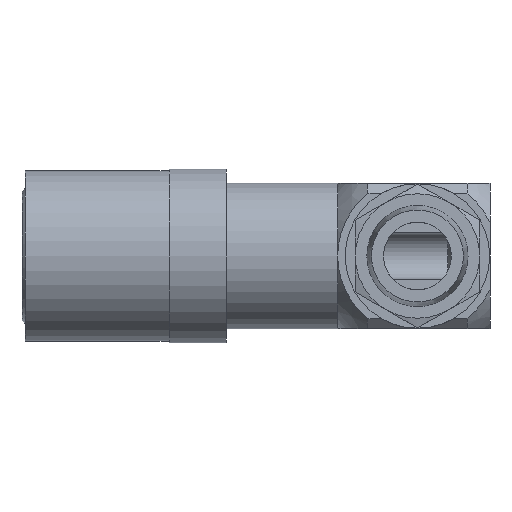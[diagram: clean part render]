
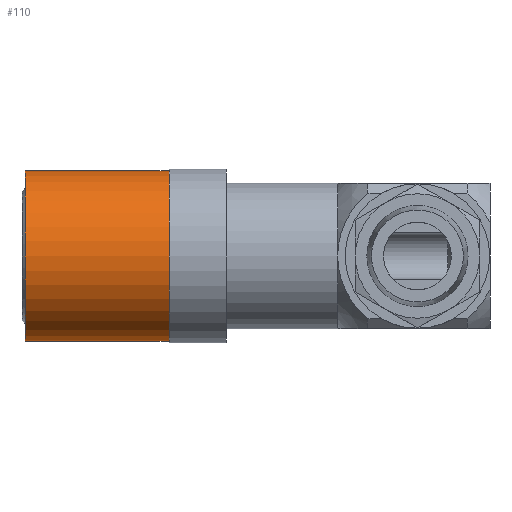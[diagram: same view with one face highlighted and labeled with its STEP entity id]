
A CAD part, front view. The second image highlights one B-rep face of the part: STEP entity #110.
In plain terms, the highlighted cylindrical face has radius 11.3 mm (diameter 22.6 mm), a full revolution.
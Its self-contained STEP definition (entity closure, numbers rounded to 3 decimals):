
#110 = ADVANCED_FACE( '', ( #222, #223 ), #224, .T. );
#222 = FACE_OUTER_BOUND( '', #364, .T. );
#223 = FACE_OUTER_BOUND( '', #365, .T. );
#224 = CYLINDRICAL_SURFACE( '', #366, 11.3 );
#364 = EDGE_LOOP( '', ( #677 ) );
#365 = EDGE_LOOP( '', ( #678 ) );
#366 = AXIS2_PLACEMENT_3D( '', #679, #680, #681 );
#677 = ORIENTED_EDGE( '', *, *, #917, .F. );
#678 = ORIENTED_EDGE( '', *, *, #918, .T. );
#679 = CARTESIAN_POINT( '', ( 66.326, 0., 0. ) );
#680 = DIRECTION( '', ( -1., 0., 0. ) );
#681 = DIRECTION( '', ( 0., 0., -1. ) );
#917 = EDGE_CURVE( '', #1098, #1098, #1099, .T. );
#918 = EDGE_CURVE( '', #1100, #1100, #1101, .T. );
#1098 = VERTEX_POINT( '', #1417 );
#1099 = CIRCLE( '', #1418, 11.3 );
#1100 = VERTEX_POINT( '', #1419 );
#1101 = CIRCLE( '', #1420, 11.3 );
#1417 = CARTESIAN_POINT( '', ( 19.05, 0., -11.3 ) );
#1418 = AXIS2_PLACEMENT_3D( '', #1634, #1635, #1636 );
#1419 = CARTESIAN_POINT( '', ( 0., 0., -11.3 ) );
#1420 = AXIS2_PLACEMENT_3D( '', #1637, #1638, #1639 );
#1634 = CARTESIAN_POINT( '', ( 19.05, 0., 0. ) );
#1635 = DIRECTION( '', ( 1., 0., 0. ) );
#1636 = DIRECTION( '', ( 0., 0., -1. ) );
#1637 = CARTESIAN_POINT( '', ( 0., 0., 0. ) );
#1638 = DIRECTION( '', ( 1., 0., 0. ) );
#1639 = DIRECTION( '', ( 0., 0., -1. ) );
